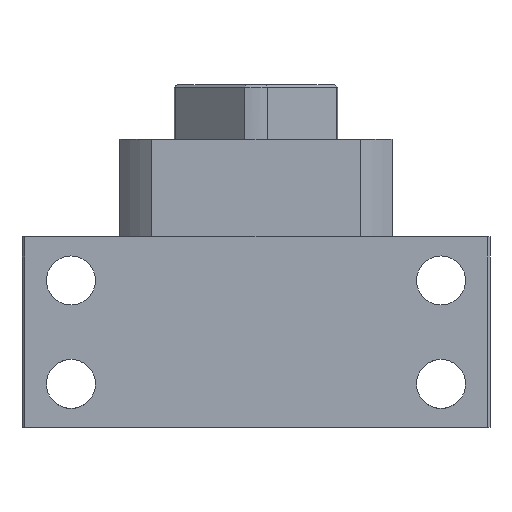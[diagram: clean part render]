
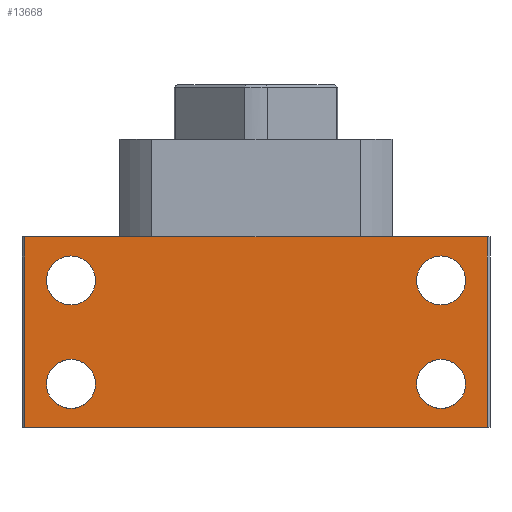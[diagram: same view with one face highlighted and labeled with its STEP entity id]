
A CAD part, front view. The second image highlights one B-rep face of the part: STEP entity #13668.
In plain terms, the highlighted planar face has unit normal (0, -1, 0).
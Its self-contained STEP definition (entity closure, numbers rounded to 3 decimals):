
#129 = DIRECTION ( 'NONE',  ( 0., 0., 1. ) ) ;
#276 = EDGE_LOOP ( 'NONE', ( #12394, #10598, #629, #1040 ) ) ;
#352 = DIRECTION ( 'NONE',  ( 0., 1., 0. ) ) ;
#394 = VERTEX_POINT ( 'NONE', #772 ) ;
#506 = DIRECTION ( 'NONE',  ( 1., 0., 0. ) ) ;
#591 = DIRECTION ( 'NONE',  ( 0., 0., -1. ) ) ;
#629 = ORIENTED_EDGE ( 'NONE', *, *, #6968, .F. ) ;
#772 = CARTESIAN_POINT ( 'NONE',  ( -34., -39., 3.5 ) ) ;
#804 = CARTESIAN_POINT ( 'NONE',  ( 34., -39., 27. ) ) ;
#809 = DIRECTION ( 'NONE',  ( 0., 0., 1. ) ) ;
#883 = VECTOR ( 'NONE', #5561, 1000. ) ;
#929 = EDGE_CURVE ( 'NONE', #7989, #5290, #2369, .T. ) ;
#1040 = ORIENTED_EDGE ( 'NONE', *, *, #929, .T. ) ;
#1170 = ORIENTED_EDGE ( 'NONE', *, *, #1725, .T. ) ;
#1418 = CARTESIAN_POINT ( 'NONE',  ( -34., -39., 27. ) ) ;
#1524 = VERTEX_POINT ( 'NONE', #4270 ) ;
#1562 = AXIS2_PLACEMENT_3D ( 'NONE', #1418, #352, #12090 ) ;
#1582 = CARTESIAN_POINT ( 'NONE',  ( 34., -39., 8. ) ) ;
#1584 = CIRCLE ( 'NONE', #5336, 4.5 ) ;
#1686 = CIRCLE ( 'NONE', #7695, 4.5 ) ;
#1725 = EDGE_CURVE ( 'NONE', #6724, #7028, #1584, .T. ) ;
#1985 = ORIENTED_EDGE ( 'NONE', *, *, #4122, .T. ) ;
#2207 = VECTOR ( 'NONE', #3906, 1000. ) ;
#2221 = CARTESIAN_POINT ( 'NONE',  ( -42.5, -39., 35. ) ) ;
#2324 = FACE_OUTER_BOUND ( 'NONE', #276, .T. ) ;
#2334 = VERTEX_POINT ( 'NONE', #13188 ) ;
#2369 = LINE ( 'NONE', #9789, #883 ) ;
#2370 = LINE ( 'NONE', #3995, #2207 ) ;
#2683 = VERTEX_POINT ( 'NONE', #3692 ) ;
#2880 = DIRECTION ( 'NONE',  ( 0., 1., 0. ) ) ;
#2909 = EDGE_CURVE ( 'NONE', #1524, #2683, #10422, .T. ) ;
#2998 = FACE_BOUND ( 'NONE', #8489, .T. ) ;
#3279 = CARTESIAN_POINT ( 'NONE',  ( 34., -39., 12.5 ) ) ;
#3423 = VERTEX_POINT ( 'NONE', #4348 ) ;
#3481 = EDGE_LOOP ( 'NONE', ( #7089, #4641 ) ) ;
#3692 = CARTESIAN_POINT ( 'NONE',  ( 34., -39., 31.5 ) ) ;
#3906 = DIRECTION ( 'NONE',  ( 1., 0., 0. ) ) ;
#3995 = CARTESIAN_POINT ( 'NONE',  ( 42.5, -39., 35. ) ) ;
#4050 = ORIENTED_EDGE ( 'NONE', *, *, #12338, .T. ) ;
#4122 = EDGE_CURVE ( 'NONE', #3423, #5307, #5735, .T. ) ;
#4270 = CARTESIAN_POINT ( 'NONE',  ( 34., -39., 22.5 ) ) ;
#4322 = AXIS2_PLACEMENT_3D ( 'NONE', #11269, #12294, #8035 ) ;
#4348 = CARTESIAN_POINT ( 'NONE',  ( 34., -39., 3.5 ) ) ;
#4580 = CARTESIAN_POINT ( 'NONE',  ( -34., -39., 12.5 ) ) ;
#4641 = ORIENTED_EDGE ( 'NONE', *, *, #2909, .T. ) ;
#4740 = CARTESIAN_POINT ( 'NONE',  ( 42.5, -39., 35. ) ) ;
#5247 = AXIS2_PLACEMENT_3D ( 'NONE', #9274, #2880, #10337 ) ;
#5290 = VERTEX_POINT ( 'NONE', #12904 ) ;
#5307 = VERTEX_POINT ( 'NONE', #3279 ) ;
#5336 = AXIS2_PLACEMENT_3D ( 'NONE', #5682, #12006, #129 ) ;
#5372 = LINE ( 'NONE', #11141, #13575 ) ;
#5561 = DIRECTION ( 'NONE',  ( 0., 0., -1. ) ) ;
#5671 = CIRCLE ( 'NONE', #1562, 4.5 ) ;
#5682 = CARTESIAN_POINT ( 'NONE',  ( -34., -39., 27. ) ) ;
#5735 = CIRCLE ( 'NONE', #12965, 4.5 ) ;
#5906 = DIRECTION ( 'NONE',  ( 0., 1., 0. ) ) ;
#6250 = VECTOR ( 'NONE', #591, 1000. ) ;
#6256 = EDGE_LOOP ( 'NONE', ( #1170, #8079 ) ) ;
#6338 = FACE_BOUND ( 'NONE', #12423, .T. ) ;
#6724 = VERTEX_POINT ( 'NONE', #13387 ) ;
#6809 = EDGE_CURVE ( 'NONE', #12524, #394, #8401, .T. ) ;
#6968 = EDGE_CURVE ( 'NONE', #7989, #10999, #2370, .T. ) ;
#7013 = CARTESIAN_POINT ( 'NONE',  ( 34., -39., 27. ) ) ;
#7028 = VERTEX_POINT ( 'NONE', #10636 ) ;
#7089 = ORIENTED_EDGE ( 'NONE', *, *, #8846, .T. ) ;
#7187 = DIRECTION ( 'NONE',  ( 0., 1., 0. ) ) ;
#7544 = AXIS2_PLACEMENT_3D ( 'NONE', #804, #10449, #8262 ) ;
#7583 = EDGE_CURVE ( 'NONE', #5290, #2334, #5372, .T. ) ;
#7695 = AXIS2_PLACEMENT_3D ( 'NONE', #12520, #7187, #809 ) ;
#7710 = EDGE_CURVE ( 'NONE', #5307, #3423, #11943, .T. ) ;
#7817 = FACE_BOUND ( 'NONE', #6256, .T. ) ;
#7989 = VERTEX_POINT ( 'NONE', #2221 ) ;
#8035 = DIRECTION ( 'NONE',  ( 0., 0., 1. ) ) ;
#8079 = ORIENTED_EDGE ( 'NONE', *, *, #13532, .T. ) ;
#8219 = DIRECTION ( 'NONE',  ( 0., 0., 1. ) ) ;
#8262 = DIRECTION ( 'NONE',  ( 0., 0., 1. ) ) ;
#8401 = CIRCLE ( 'NONE', #4322, 4.5 ) ;
#8489 = EDGE_LOOP ( 'NONE', ( #13068, #4050 ) ) ;
#8846 = EDGE_CURVE ( 'NONE', #2683, #1524, #9100, .T. ) ;
#8924 = ORIENTED_EDGE ( 'NONE', *, *, #7710, .T. ) ;
#9010 = CARTESIAN_POINT ( 'NONE',  ( 42.5, -39., 35. ) ) ;
#9100 = CIRCLE ( 'NONE', #7544, 4.5 ) ;
#9159 = DIRECTION ( 'NONE',  ( 0., 1., 0. ) ) ;
#9274 = CARTESIAN_POINT ( 'NONE',  ( 34., -39., 8. ) ) ;
#9361 = CARTESIAN_POINT ( 'NONE',  ( 42.5, -39., 35. ) ) ;
#9739 = EDGE_CURVE ( 'NONE', #10999, #2334, #13616, .T. ) ;
#9789 = CARTESIAN_POINT ( 'NONE',  ( -42.5, -39., 35. ) ) ;
#10337 = DIRECTION ( 'NONE',  ( 0., 0., 1. ) ) ;
#10422 = CIRCLE ( 'NONE', #11934, 4.5 ) ;
#10449 = DIRECTION ( 'NONE',  ( 0., 1., 0. ) ) ;
#10598 = ORIENTED_EDGE ( 'NONE', *, *, #9739, .F. ) ;
#10636 = CARTESIAN_POINT ( 'NONE',  ( -34., -39., 22.5 ) ) ;
#10999 = VERTEX_POINT ( 'NONE', #9361 ) ;
#11141 = CARTESIAN_POINT ( 'NONE',  ( 42.5, -39., 0. ) ) ;
#11269 = CARTESIAN_POINT ( 'NONE',  ( -34., -39., 8. ) ) ;
#11934 = AXIS2_PLACEMENT_3D ( 'NONE', #7013, #9159, #8219 ) ;
#11943 = CIRCLE ( 'NONE', #5247, 4.5 ) ;
#12006 = DIRECTION ( 'NONE',  ( 0., 1., 0. ) ) ;
#12090 = DIRECTION ( 'NONE',  ( 0., 0., 1. ) ) ;
#12158 = DIRECTION ( 'NONE',  ( 0., 1., 0. ) ) ;
#12183 = DIRECTION ( 'NONE',  ( 0., 0., 1. ) ) ;
#12287 = PLANE ( 'NONE',  #12365 ) ;
#12294 = DIRECTION ( 'NONE',  ( 0., 1., 0. ) ) ;
#12314 = DIRECTION ( 'NONE',  ( 0., 0., 1. ) ) ;
#12338 = EDGE_CURVE ( 'NONE', #394, #12524, #1686, .T. ) ;
#12346 = FACE_BOUND ( 'NONE', #3481, .T. ) ;
#12365 = AXIS2_PLACEMENT_3D ( 'NONE', #9010, #5906, #12183 ) ;
#12394 = ORIENTED_EDGE ( 'NONE', *, *, #7583, .T. ) ;
#12423 = EDGE_LOOP ( 'NONE', ( #8924, #1985 ) ) ;
#12520 = CARTESIAN_POINT ( 'NONE',  ( -34., -39., 8. ) ) ;
#12524 = VERTEX_POINT ( 'NONE', #4580 ) ;
#12904 = CARTESIAN_POINT ( 'NONE',  ( -42.5, -39., 0. ) ) ;
#12965 = AXIS2_PLACEMENT_3D ( 'NONE', #1582, #12158, #12314 ) ;
#13068 = ORIENTED_EDGE ( 'NONE', *, *, #6809, .T. ) ;
#13188 = CARTESIAN_POINT ( 'NONE',  ( 42.5, -39., 0. ) ) ;
#13387 = CARTESIAN_POINT ( 'NONE',  ( -34., -39., 31.5 ) ) ;
#13532 = EDGE_CURVE ( 'NONE', #7028, #6724, #5671, .T. ) ;
#13575 = VECTOR ( 'NONE', #506, 1000. ) ;
#13616 = LINE ( 'NONE', #4740, #6250 ) ;
#13668 = ADVANCED_FACE ( 'NONE', ( #12346, #6338, #7817, #2998, #2324 ), #12287, .F. ) ;
